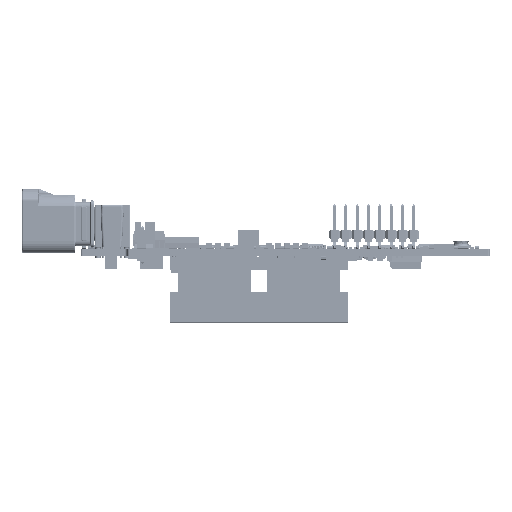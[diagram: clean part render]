
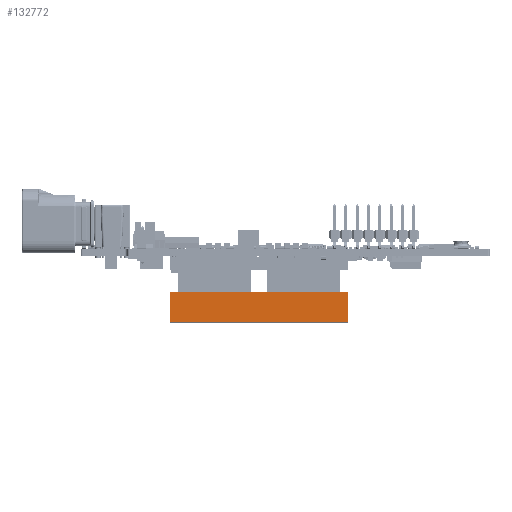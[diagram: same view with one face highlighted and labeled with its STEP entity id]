
A CAD part, front view. The second image highlights one B-rep face of the part: STEP entity #132772.
In plain terms, the highlighted planar face has unit normal (0, -1, 0) as drawn and (0, 0, -1) by its records, which use the part's own axes.
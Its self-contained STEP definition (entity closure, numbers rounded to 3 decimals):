
#7507=FACE_OUTER_BOUND('',#14366,.T.);
#14366=EDGE_LOOP('',(#91848,#91849,#91850,#91851));
#23226=LINE('',#192572,#39522);
#23227=LINE('',#192574,#39523);
#23228=LINE('',#192576,#39524);
#23229=LINE('',#192577,#39525);
#39522=VECTOR('',#156828,1000.);
#39523=VECTOR('',#156829,1000.);
#39524=VECTOR('',#156830,1000.);
#39525=VECTOR('',#156831,1000.);
#55038=VERTEX_POINT('',#192570);
#55039=VERTEX_POINT('',#192571);
#55040=VERTEX_POINT('',#192573);
#55041=VERTEX_POINT('',#192575);
#68721=EDGE_CURVE('',#55038,#55039,#23226,.T.);
#68722=EDGE_CURVE('',#55040,#55038,#23227,.T.);
#68723=EDGE_CURVE('',#55041,#55040,#23228,.T.);
#68724=EDGE_CURVE('',#55039,#55041,#23229,.T.);
#91848=ORIENTED_EDGE('',*,*,#68721,.F.);
#91849=ORIENTED_EDGE('',*,*,#68722,.F.);
#91850=ORIENTED_EDGE('',*,*,#68723,.F.);
#91851=ORIENTED_EDGE('',*,*,#68724,.F.);
#120795=PLANE('',#141009);
#132772=ADVANCED_FACE('',(#7507),#120795,.F.);
#141009=AXIS2_PLACEMENT_3D('',#192569,#156826,#156827);
#156826=DIRECTION('center_axis',(0.,0.,1.));
#156827=DIRECTION('ref_axis',(1.,0.,0.));
#156828=DIRECTION('',(0.,-1.,0.));
#156829=DIRECTION('',(-1.,0.,0.));
#156830=DIRECTION('',(0.,1.,0.));
#156831=DIRECTION('',(1.,0.,0.));
#192569=CARTESIAN_POINT('Origin',(20.003,14.785,-2.985));
#192570=CARTESIAN_POINT('',(-20.003,14.785,-2.985));
#192571=CARTESIAN_POINT('',(-20.003,7.978,-2.985));
#192572=CARTESIAN_POINT('',(-20.003,14.785,-2.985));
#192573=CARTESIAN_POINT('',(20.003,14.785,-2.985));
#192574=CARTESIAN_POINT('',(20.003,14.785,-2.985));
#192575=CARTESIAN_POINT('',(20.003,7.978,-2.985));
#192576=CARTESIAN_POINT('',(20.003,14.785,-2.985));
#192577=CARTESIAN_POINT('',(20.003,7.978,-2.985));
